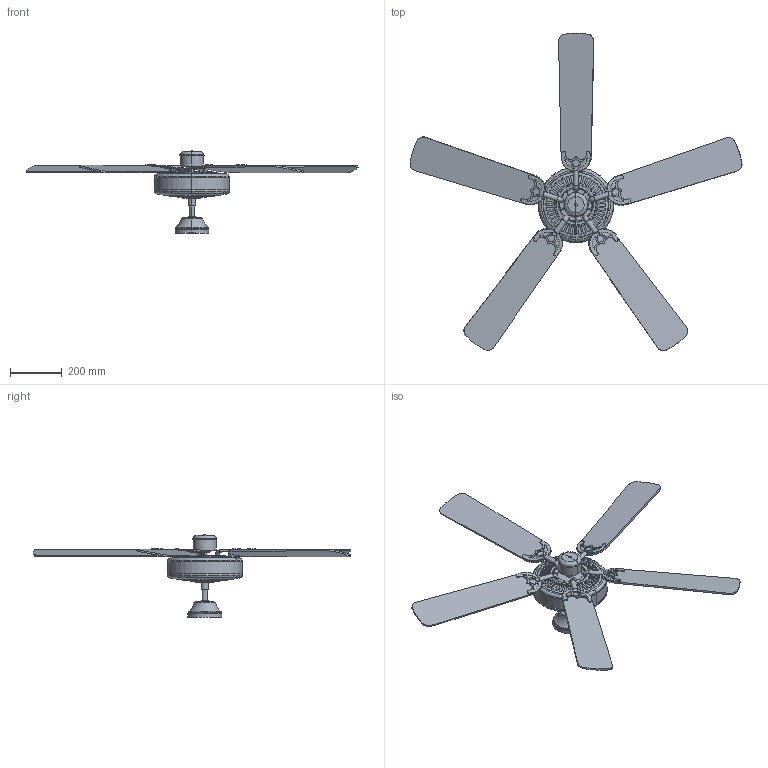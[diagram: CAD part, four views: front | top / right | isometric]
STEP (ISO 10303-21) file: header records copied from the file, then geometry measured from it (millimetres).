
FILE_DESCRIPTION(/* description */ (''),/* implementation_level */ '2;1');
FILE_NAME(/* name */ 'C:\Users\FrancoSartori\Documents\FARO\01_En Proceso\00_ALOHA YAKARTA\03_Publicación\33710.stp',/* time_stamp */ '2021-06-08T14:00:05+02:00',/* author */ ('FrancoSartori'),/* organization */ (''),/* preprocessor_version */ 'ST-DEVELOPER v18.1',/* originating_system */ 'AutoCAD Mechanical',/* authorisation */ '');
FILE_SCHEMA (('AUTOMOTIVE_DESIGN { 1 0 10303 214 3 1 1 }'));
Length unit declared in the file: millimetre
Products named in the file (2): Product; 33710_ - FAN-468549-Export
Assembly tree (1 placements, depth 2):
  Product
    33710_ - FAN-468549-Export
Bounding box: 1280.65 x 1224.5 x 319.23 mm (x, y, z)
Volume: 7657735.7 mm3; surface area: 1272217.3 mm2
Topology: 19 solids, 19 shells, 754 faces, 2035 edges, 1318 vertices
Faces by surface type: cylinder 386, plane 299, torus 39, cone 26, sphere 2, bspline 2
Entity records: 36840 total; most frequent: CARTESIAN_POINT 18953, ORIENTED_EDGE 4070, DIRECTION 3236, EDGE_CURVE 2035, VERTEX_POINT 1318, AXIS2_PLACEMENT_3D 1233, EDGE_LOOP 945, LINE 770
